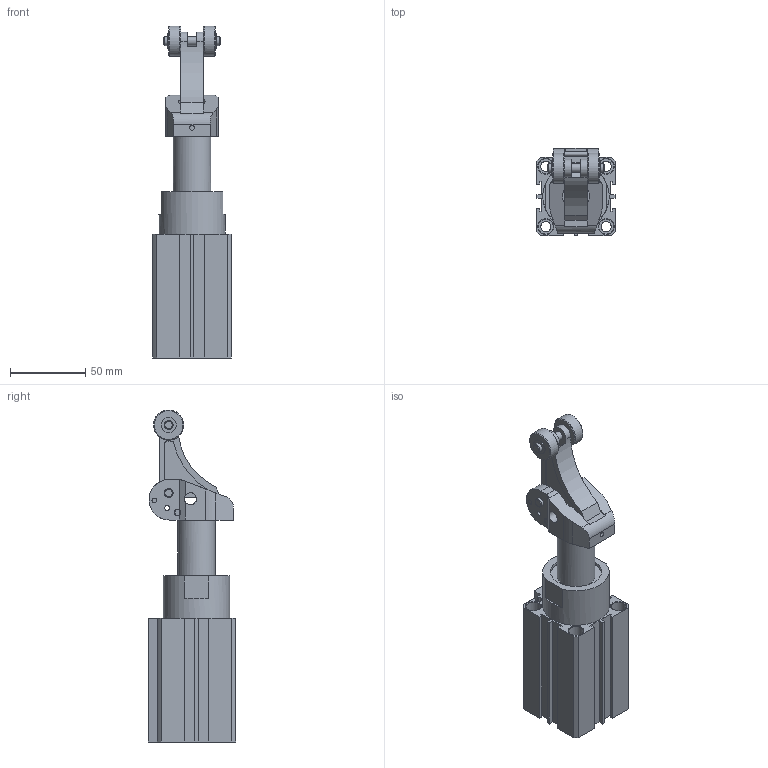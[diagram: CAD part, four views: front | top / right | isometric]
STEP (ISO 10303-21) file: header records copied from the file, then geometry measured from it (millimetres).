
FILE_DESCRIPTION((''),'2;1');
FILE_NAME('I:\3D電子目錄\氣缸\STD\STD40\STD40x30.stp','2007-09-20T13:30:19',('Administrator'),(''),'Autodesk Inventor 11','Autodesk Inventor 11','');
FILE_SCHEMA(('AUTOMOTIVE_DESIGN { 1 0 10303 214 1 1 1 1 }'));
Length unit declared in the file: millimetre
Products named in the file (1): STD40
Bounding box: 52 x 58 x 220.2 mm (x, y, z)
Volume: 294602.9 mm3; surface area: 63524.8 mm2
Topology: 4 solids, 4 shells, 261 faces, 684 edges, 442 vertices
Faces by surface type: plane 140, cylinder 76, cone 23, bspline 21, torus 1
Full cylindrical faces by diameter (mm): 2.2 x2, 3 x1, 3.1 x4, 3.8 x1, 4 x1, 6 x6, 6.8 x4, 8 x2, 10 x10, 20 x2, 25 x1, 25.2 x1, 29 x1, 34 x1, 35.7 x1, 42 x2, 44 x2, 44.5 x2
Entity records: 8598 total; most frequent: CARTESIAN_POINT 2394, DIRECTION 1277, ORIENTED_EDGE 1194, EDGE_CURVE 597, AXIS2_PLACEMENT_3D 470, VERTEX_POINT 425, EDGE_LOOP 382, VECTOR 337
